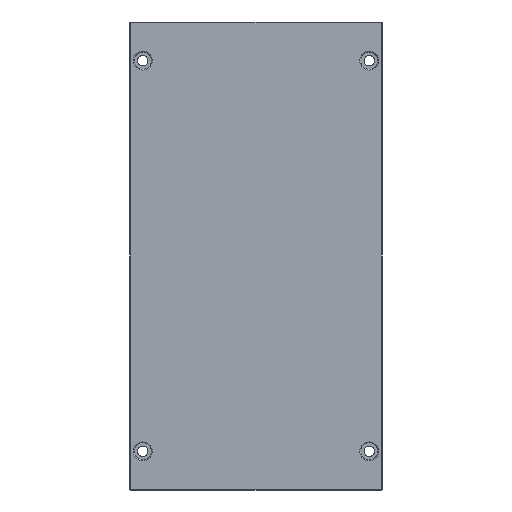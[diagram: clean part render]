
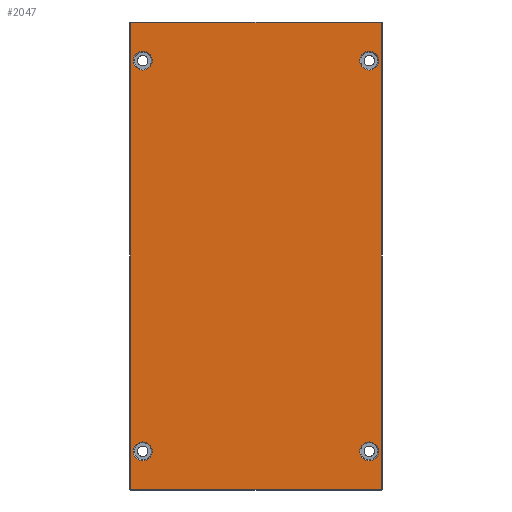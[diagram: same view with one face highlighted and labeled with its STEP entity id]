
A CAD part, front view. The second image highlights one B-rep face of the part: STEP entity #2047.
In plain terms, the highlighted planar face has unit normal (0, -1, 0).
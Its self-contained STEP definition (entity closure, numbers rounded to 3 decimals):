
#18 = DIRECTION ( 'NONE',  ( 0., 0., 1. ) ) ;
#33 = CARTESIAN_POINT ( 'NONE',  ( 0., 0., 247. ) ) ;
#40 = DIRECTION ( 'NONE',  ( 0., 0., 1. ) ) ;
#47 = DIRECTION ( 'NONE',  ( 0., 1., 0. ) ) ;
#51 = EDGE_LOOP ( 'NONE', ( #1621, #336 ) ) ;
#57 = CARTESIAN_POINT ( 'NONE',  ( -120., 0., 207. ) ) ;
#99 = CARTESIAN_POINT ( 'NONE',  ( 120., 0., -207. ) ) ;
#147 = AXIS2_PLACEMENT_3D ( 'NONE', #57, #47, #40 ) ;
#153 = EDGE_CURVE ( 'NONE', #309, #277, #1440, .T. ) ;
#218 = AXIS2_PLACEMENT_3D ( 'NONE', #1220, #1776, #1390 ) ;
#236 = FACE_BOUND ( 'NONE', #2065, .T. ) ;
#277 = VERTEX_POINT ( 'NONE', #613 ) ;
#304 = CARTESIAN_POINT ( 'NONE',  ( -120., 0., 197. ) ) ;
#309 = VERTEX_POINT ( 'NONE', #410 ) ;
#336 = ORIENTED_EDGE ( 'NONE', *, *, #2397, .T. ) ;
#368 = CIRCLE ( 'NONE', #147, 10. ) ;
#406 = EDGE_CURVE ( 'NONE', #1060, #915, #2156, .T. ) ;
#410 = CARTESIAN_POINT ( 'NONE',  ( 133., 0., 247. ) ) ;
#503 = EDGE_LOOP ( 'NONE', ( #1999, #2183 ) ) ;
#511 = EDGE_CURVE ( 'NONE', #915, #309, #1333, .T. ) ;
#563 = CARTESIAN_POINT ( 'NONE',  ( -120., 0., -217. ) ) ;
#590 = CARTESIAN_POINT ( 'NONE',  ( -120., 0., -197. ) ) ;
#606 = LINE ( 'NONE', #823, #2028 ) ;
#613 = CARTESIAN_POINT ( 'NONE',  ( -133., 0., 247. ) ) ;
#635 = ORIENTED_EDGE ( 'NONE', *, *, #153, .T. ) ;
#698 = CARTESIAN_POINT ( 'NONE',  ( 120., 0., 197. ) ) ;
#715 = CIRCLE ( 'NONE', #1201, 10. ) ;
#725 = AXIS2_PLACEMENT_3D ( 'NONE', #1495, #1295, #1352 ) ;
#753 = DIRECTION ( 'NONE',  ( 0., 0., 1. ) ) ;
#779 = DIRECTION ( 'NONE',  ( 0., 0., 1. ) ) ;
#802 = EDGE_LOOP ( 'NONE', ( #1026, #635, #2416, #1928 ) ) ;
#813 = CIRCLE ( 'NONE', #2154, 10. ) ;
#822 = EDGE_CURVE ( 'NONE', #2344, #1187, #368, .T. ) ;
#823 = CARTESIAN_POINT ( 'NONE',  ( -133., 0., 0. ) ) ;
#842 = FACE_BOUND ( 'NONE', #503, .T. ) ;
#851 = ORIENTED_EDGE ( 'NONE', *, *, #1818, .T. ) ;
#906 = DIRECTION ( 'NONE',  ( 0., 0., 1. ) ) ;
#914 = DIRECTION ( 'NONE',  ( 0., 1., 0. ) ) ;
#915 = VERTEX_POINT ( 'NONE', #1697 ) ;
#922 = CARTESIAN_POINT ( 'NONE',  ( 120., 0., 207. ) ) ;
#924 = DIRECTION ( 'NONE',  ( 0., 1., 0. ) ) ;
#936 = DIRECTION ( 'NONE',  ( 0., 1., 0. ) ) ;
#938 = CARTESIAN_POINT ( 'NONE',  ( 120., 0., 207. ) ) ;
#952 = EDGE_CURVE ( 'NONE', #277, #1060, #606, .T. ) ;
#954 = CARTESIAN_POINT ( 'NONE',  ( 0., 0., 0. ) ) ;
#993 = CIRCLE ( 'NONE', #2515, 10. ) ;
#1026 = ORIENTED_EDGE ( 'NONE', *, *, #511, .T. ) ;
#1060 = VERTEX_POINT ( 'NONE', #2512 ) ;
#1068 = DIRECTION ( 'NONE',  ( 0., 0., -1. ) ) ;
#1122 = PLANE ( 'NONE',  #1392 ) ;
#1125 = VECTOR ( 'NONE', #1992, 1000. ) ;
#1148 = DIRECTION ( 'NONE',  ( 0., 1., 0. ) ) ;
#1180 = DIRECTION ( 'NONE',  ( 0., 0., 1. ) ) ;
#1187 = VERTEX_POINT ( 'NONE', #1864 ) ;
#1201 = AXIS2_PLACEMENT_3D ( 'NONE', #938, #924, #753 ) ;
#1215 = EDGE_CURVE ( 'NONE', #1251, #2434, #1980, .T. ) ;
#1220 = CARTESIAN_POINT ( 'NONE',  ( -120., 0., 207. ) ) ;
#1251 = VERTEX_POINT ( 'NONE', #1661 ) ;
#1292 = FACE_BOUND ( 'NONE', #51, .T. ) ;
#1295 = DIRECTION ( 'NONE',  ( 0., 1., 0. ) ) ;
#1310 = CARTESIAN_POINT ( 'NONE',  ( -120., 0., -207. ) ) ;
#1333 = LINE ( 'NONE', #1479, #2318 ) ;
#1352 = DIRECTION ( 'NONE',  ( 0., 0., 1. ) ) ;
#1369 = DIRECTION ( 'NONE',  ( 0., 0., 1. ) ) ;
#1377 = EDGE_CURVE ( 'NONE', #1998, #2544, #2559, .T. ) ;
#1382 = VECTOR ( 'NONE', #2480, 1000. ) ;
#1390 = DIRECTION ( 'NONE',  ( 0., 0., 1. ) ) ;
#1392 = AXIS2_PLACEMENT_3D ( 'NONE', #954, #936, #779 ) ;
#1440 = LINE ( 'NONE', #33, #1382 ) ;
#1479 = CARTESIAN_POINT ( 'NONE',  ( 133., 0., 0. ) ) ;
#1495 = CARTESIAN_POINT ( 'NONE',  ( -120., 0., -207. ) ) ;
#1621 = ORIENTED_EDGE ( 'NONE', *, *, #822, .T. ) ;
#1661 = CARTESIAN_POINT ( 'NONE',  ( 120., 0., -217. ) ) ;
#1667 = AXIS2_PLACEMENT_3D ( 'NONE', #922, #914, #906 ) ;
#1677 = DIRECTION ( 'NONE',  ( 0., 0., 1. ) ) ;
#1697 = CARTESIAN_POINT ( 'NONE',  ( 133., 0., -247. ) ) ;
#1705 = DIRECTION ( 'NONE',  ( 0., 1., 0. ) ) ;
#1712 = CARTESIAN_POINT ( 'NONE',  ( 120., 0., -207. ) ) ;
#1745 = FACE_BOUND ( 'NONE', #1782, .T. ) ;
#1776 = DIRECTION ( 'NONE',  ( 0., 1., 0. ) ) ;
#1782 = EDGE_LOOP ( 'NONE', ( #2413, #1807 ) ) ;
#1807 = ORIENTED_EDGE ( 'NONE', *, *, #1377, .T. ) ;
#1814 = EDGE_CURVE ( 'NONE', #2511, #2505, #2496, .T. ) ;
#1818 = EDGE_CURVE ( 'NONE', #2505, #2511, #993, .T. ) ;
#1864 = CARTESIAN_POINT ( 'NONE',  ( -120., 0., 217. ) ) ;
#1898 = EDGE_CURVE ( 'NONE', #2434, #1251, #813, .T. ) ;
#1925 = AXIS2_PLACEMENT_3D ( 'NONE', #1712, #1705, #1677 ) ;
#1928 = ORIENTED_EDGE ( 'NONE', *, *, #406, .T. ) ;
#1980 = CIRCLE ( 'NONE', #1925, 10. ) ;
#1992 = DIRECTION ( 'NONE',  ( 1., 0., 0. ) ) ;
#1998 = VERTEX_POINT ( 'NONE', #2321 ) ;
#1999 = ORIENTED_EDGE ( 'NONE', *, *, #1215, .T. ) ;
#2006 = CARTESIAN_POINT ( 'NONE',  ( 0., 0., -247. ) ) ;
#2028 = VECTOR ( 'NONE', #1068, 1000. ) ;
#2047 = ADVANCED_FACE ( 'NONE', ( #2277, #1292, #842, #236, #1745 ), #1122, .F. ) ;
#2065 = EDGE_LOOP ( 'NONE', ( #2471, #851 ) ) ;
#2115 = EDGE_CURVE ( 'NONE', #2544, #1998, #715, .T. ) ;
#2154 = AXIS2_PLACEMENT_3D ( 'NONE', #99, #2347, #18 ) ;
#2156 = LINE ( 'NONE', #2006, #1125 ) ;
#2183 = ORIENTED_EDGE ( 'NONE', *, *, #1898, .T. ) ;
#2191 = CARTESIAN_POINT ( 'NONE',  ( 120., 0., -197. ) ) ;
#2277 = FACE_OUTER_BOUND ( 'NONE', #802, .T. ) ;
#2318 = VECTOR ( 'NONE', #1369, 1000. ) ;
#2321 = CARTESIAN_POINT ( 'NONE',  ( 120., 0., 217. ) ) ;
#2344 = VERTEX_POINT ( 'NONE', #304 ) ;
#2347 = DIRECTION ( 'NONE',  ( 0., 1., 0. ) ) ;
#2397 = EDGE_CURVE ( 'NONE', #1187, #2344, #2399, .T. ) ;
#2399 = CIRCLE ( 'NONE', #218, 10. ) ;
#2413 = ORIENTED_EDGE ( 'NONE', *, *, #2115, .T. ) ;
#2416 = ORIENTED_EDGE ( 'NONE', *, *, #952, .T. ) ;
#2434 = VERTEX_POINT ( 'NONE', #2191 ) ;
#2471 = ORIENTED_EDGE ( 'NONE', *, *, #1814, .T. ) ;
#2480 = DIRECTION ( 'NONE',  ( -1., 0., 0. ) ) ;
#2496 = CIRCLE ( 'NONE', #725, 10. ) ;
#2505 = VERTEX_POINT ( 'NONE', #590 ) ;
#2511 = VERTEX_POINT ( 'NONE', #563 ) ;
#2512 = CARTESIAN_POINT ( 'NONE',  ( -133., 0., -247. ) ) ;
#2515 = AXIS2_PLACEMENT_3D ( 'NONE', #1310, #1148, #1180 ) ;
#2544 = VERTEX_POINT ( 'NONE', #698 ) ;
#2559 = CIRCLE ( 'NONE', #1667, 10. ) ;
